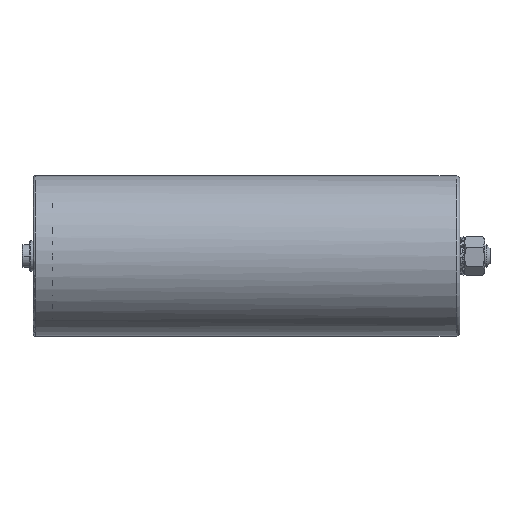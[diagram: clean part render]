
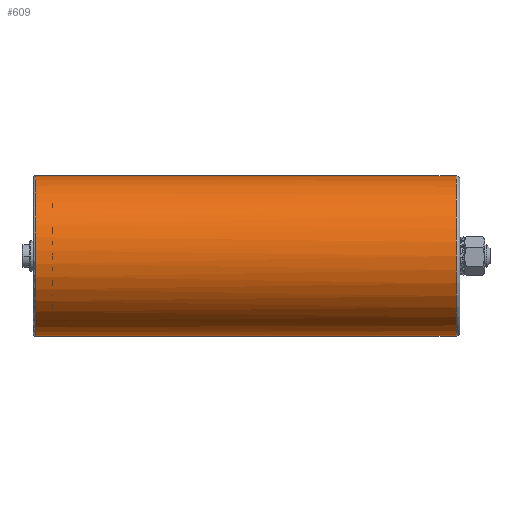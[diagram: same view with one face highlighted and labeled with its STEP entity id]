
A CAD part, left-side view. The second image highlights one B-rep face of the part: STEP entity #609.
In plain terms, the highlighted cylindrical face has radius 42.5 mm (diameter 85 mm), a partial arc.
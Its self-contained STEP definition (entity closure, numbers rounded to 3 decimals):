
#286 = LINE ( 'NONE', #4552, #8072 ) ;
#288 = DIRECTION ( 'NONE',  ( 0., -1., 0. ) ) ;
#437 = EDGE_CURVE ( 'NONE', #1414, #3627, #4426, .T. ) ;
#532 = EDGE_CURVE ( 'NONE', #1396, #5689, #7577, .T. ) ;
#609 = ADVANCED_FACE ( 'NONE', ( #5975 ), #5247, .T. ) ;
#613 = VECTOR ( 'NONE', #3810, 1000. ) ;
#924 = LINE ( 'NONE', #6071, #613 ) ;
#1054 = CIRCLE ( 'NONE', #5283, 42.5 ) ;
#1396 = VERTEX_POINT ( 'NONE', #5086 ) ;
#1414 = VERTEX_POINT ( 'NONE', #4148 ) ;
#1593 = ORIENTED_EDGE ( 'NONE', *, *, #7978, .T. ) ;
#1678 = ORIENTED_EDGE ( 'NONE', *, *, #5815, .T. ) ;
#1839 = ORIENTED_EDGE ( 'NONE', *, *, #3804, .F. ) ;
#1906 = CARTESIAN_POINT ( 'NONE',  ( 0., 2., 0. ) ) ;
#2289 = CARTESIAN_POINT ( 'NONE',  ( 0., 0., 0. ) ) ;
#2891 = CARTESIAN_POINT ( 'NONE',  ( 0., 225., -42.5 ) ) ;
#3627 = VERTEX_POINT ( 'NONE', #7368 ) ;
#3804 = EDGE_CURVE ( 'NONE', #9428, #3627, #286, .T. ) ;
#3810 = DIRECTION ( 'NONE',  ( 0., -1., 0. ) ) ;
#4148 = CARTESIAN_POINT ( 'NONE',  ( 0., 2., -42.5 ) ) ;
#4320 = DIRECTION ( 'NONE',  ( 0.596, 0., 0.803 ) ) ;
#4426 = CIRCLE ( 'NONE', #4745, 42.5 ) ;
#4552 = CARTESIAN_POINT ( 'NONE',  ( 0., 0., 42.5 ) ) ;
#4745 = AXIS2_PLACEMENT_3D ( 'NONE', #1906, #4912, #6468 ) ;
#4912 = DIRECTION ( 'NONE',  ( 0., 1., 0. ) ) ;
#5086 = CARTESIAN_POINT ( 'NONE',  ( -25.343, 225., -34.117 ) ) ;
#5247 = CYLINDRICAL_SURFACE ( 'NONE', #5668, 42.5 ) ;
#5283 = AXIS2_PLACEMENT_3D ( 'NONE', #7099, #288, #6404 ) ;
#5668 = AXIS2_PLACEMENT_3D ( 'NONE', #2289, #7657, #8379 ) ;
#5689 = VERTEX_POINT ( 'NONE', #2891 ) ;
#5815 = EDGE_CURVE ( 'NONE', #5689, #1414, #924, .T. ) ;
#5975 = FACE_OUTER_BOUND ( 'NONE', #8126, .T. ) ;
#5977 = ORIENTED_EDGE ( 'NONE', *, *, #437, .T. ) ;
#6071 = CARTESIAN_POINT ( 'NONE',  ( 0., 0., -42.5 ) ) ;
#6404 = DIRECTION ( 'NONE',  ( 0.596, 0., 0.803 ) ) ;
#6468 = DIRECTION ( 'NONE',  ( 0., 0., -1. ) ) ;
#6470 = ORIENTED_EDGE ( 'NONE', *, *, #532, .T. ) ;
#6760 = DIRECTION ( 'NONE',  ( 0., -1., 0. ) ) ;
#7099 = CARTESIAN_POINT ( 'NONE',  ( 0., 225., 0. ) ) ;
#7368 = CARTESIAN_POINT ( 'NONE',  ( 0., 2., 42.5 ) ) ;
#7554 = DIRECTION ( 'NONE',  ( 0., -1., 0. ) ) ;
#7577 = CIRCLE ( 'NONE', #8037, 42.5 ) ;
#7657 = DIRECTION ( 'NONE',  ( 0., -1., 0. ) ) ;
#7978 = EDGE_CURVE ( 'NONE', #9428, #1396, #1054, .T. ) ;
#8037 = AXIS2_PLACEMENT_3D ( 'NONE', #8835, #6760, #4320 ) ;
#8072 = VECTOR ( 'NONE', #7554, 1000. ) ;
#8126 = EDGE_LOOP ( 'NONE', ( #1839, #1593, #6470, #1678, #5977 ) ) ;
#8379 = DIRECTION ( 'NONE',  ( 0., 0., -1. ) ) ;
#8830 = CARTESIAN_POINT ( 'NONE',  ( 0., 225., 42.5 ) ) ;
#8835 = CARTESIAN_POINT ( 'NONE',  ( 0., 225., 0. ) ) ;
#9428 = VERTEX_POINT ( 'NONE', #8830 ) ;
